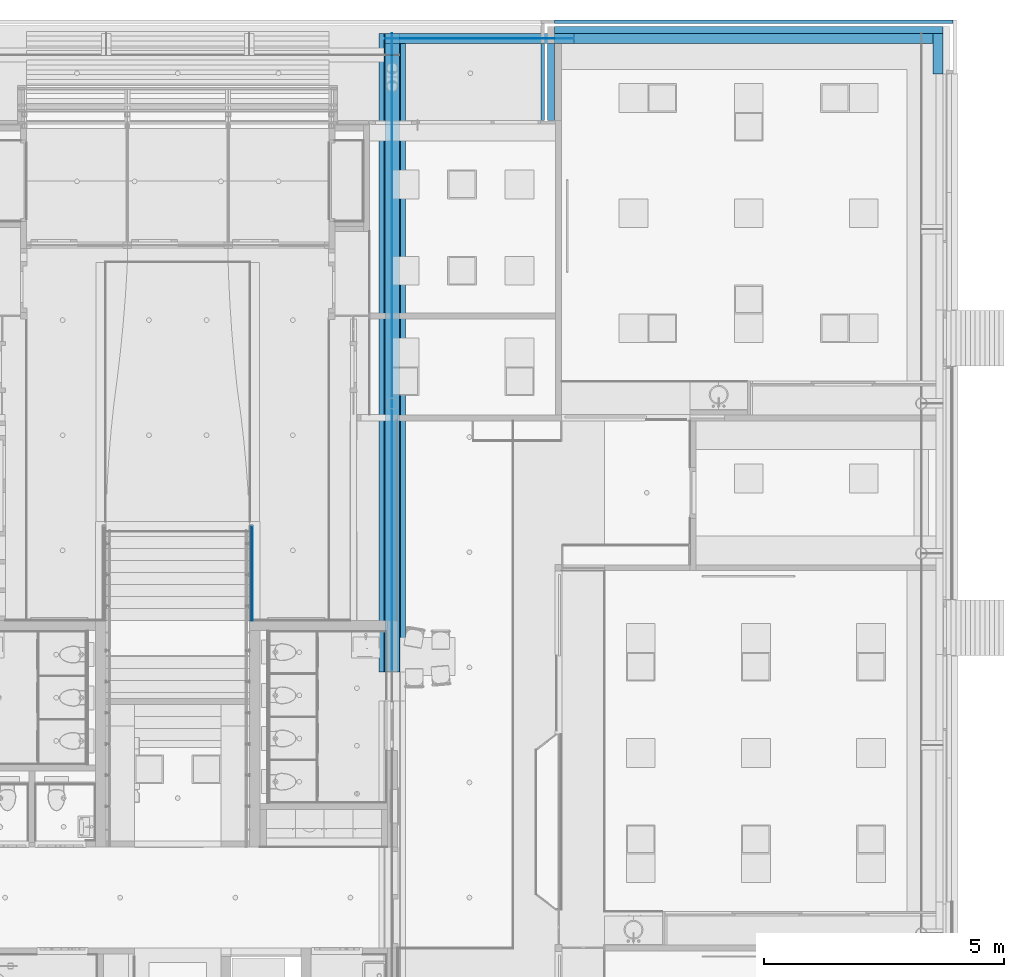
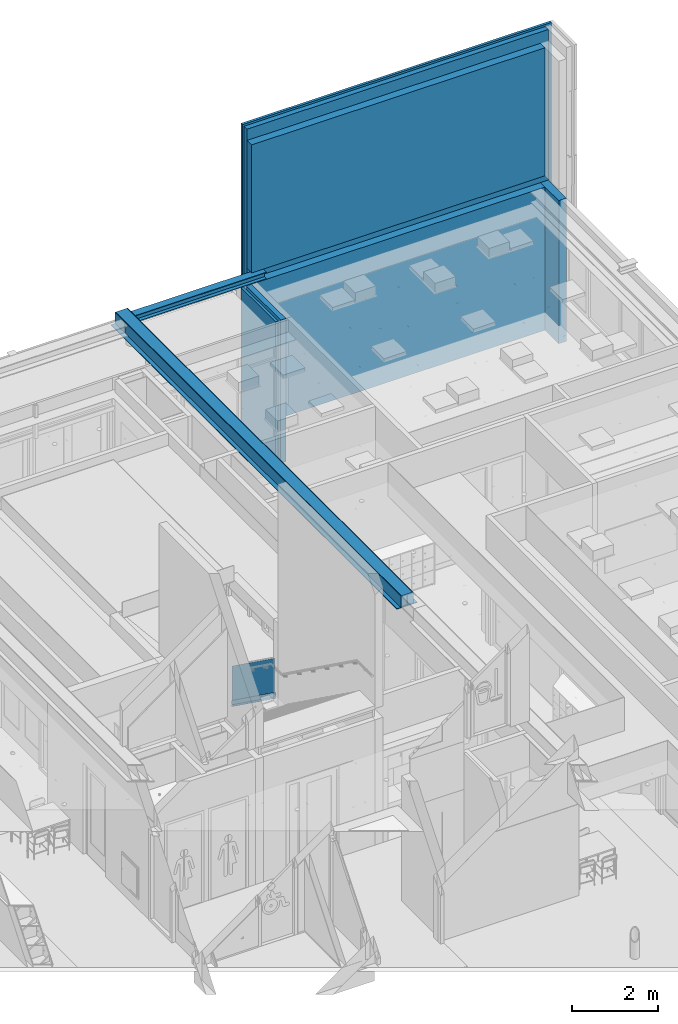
# One storey, part 125 of 347: 19 building element parts, 2 openings, 6 elements without a shape of their own.
"""IFC2X3 building model written with IfcOpenShell, lengths in millimetres."""

import ifcopenshell
import ifcopenshell.guid

model = None  # the IFC model being written
_history = None  # IfcOwnerHistory: only IFC2X3 demands one
_inside = {}  # id of a spatial element -> (the spatial element, [elements in it])
_under = {}  # id of a project, library or spatial element -> (it, [spatial elements below it])
_declared = {}  # id of a project -> (the project, [libraries it declares])
_typed = {}  # id of a type object -> (the type object, [elements of that type])
_made_of = {}  # id of a material, layer set ... -> (it, [elements and type objects made of it])


def new_model(schema):
    """Start an empty IFC model of exactly this schema.

    Asked for "IFC4X3", IfcOpenShell would pick the latest addendum, in which some entities
    have other attributes; the version numbers below select the first issue.
    IFC2X3 requires an IfcOwnerHistory on every rooted entity: one is made here for all.
    """
    global model, _history
    if schema == "IFC4X3":
        model = ifcopenshell.file(schema_version=(4, 3, 0, 0))
    else:
        model = ifcopenshell.file(schema=schema)
    _inside.clear()
    _under.clear()
    _declared.clear()
    _typed.clear()
    _made_of.clear()
    _history = None
    if model.schema == "IFC2X3":
        org = make("IfcOrganization", Name="unknown")
        user = make(
            "IfcPersonAndOrganization",
            ThePerson=make("IfcPerson", FamilyName="unknown"),
            TheOrganization=org,
        )
        app = make(
            "IfcApplication",
            ApplicationDeveloper=org,
            Version="unknown",
            ApplicationFullName="unknown",
            ApplicationIdentifier="unknown",
        )
        _history = make(
            "IfcOwnerHistory",
            OwningUser=user,
            OwningApplication=app,
            ChangeAction="ADDED",
            CreationDate=0,
        )
    return model


def make(cls, **values):
    """One entity of the class cls with the attributes given. An attribute that is None is left unset."""
    return model.create_entity(
        cls, **{name: value for name, value in values.items() if value is not None}
    )


def entity(cls, *values):
    """Any entity or typed value of the class cls, its attributes in the order of the schema. None: left unset."""
    e = model.create_entity(cls)
    for i, value in enumerate(values):
        if value is not None:
            e[i] = value
    return e


def rooted(cls, **values):
    """An entity with a GlobalId (a new one), such as an element, a storey or a relation."""
    return make(cls, GlobalId=ifcopenshell.guid.new(), OwnerHistory=_history, **values)


def si_unit(unit_type, name, prefix=None):
    """IfcSIUnit, for example si_unit("LENGTHUNIT", "METRE", prefix="MILLI")."""
    return make("IfcSIUnit", UnitType=unit_type, Prefix=prefix, Name=name)


def converted_unit(unit_type, name, factor, base, dimensions=None, offset=None):
    """IfcConversionBasedUnit, such as the inch: factor (a typed value) times the base unit."""
    return make(
        "IfcConversionBasedUnit"
        if offset is None
        else "IfcConversionBasedUnitWithOffset",
        ConversionOffset=offset,
        Dimensions=None
        if dimensions is None
        else entity("IfcDimensionalExponents", *dimensions),
        UnitType=unit_type,
        Name=name,
        ConversionFactor=make(
            "IfcMeasureWithUnit", ValueComponent=factor, UnitComponent=base
        ),
    )


def derived_unit(unit_type, elements):
    """IfcDerivedUnit: a product of units, each with its exponent."""
    return make(
        "IfcDerivedUnit",
        Elements=[
            make("IfcDerivedUnitElement", Unit=unit, Exponent=power)
            for unit, power in elements
        ],
        UnitType=unit_type,
    )


def money_unit(currency):
    """IfcMonetaryUnit."""
    return make("IfcMonetaryUnit", Currency=currency)


def assignment(units):
    """IfcUnitAssignment: the units of a project."""
    return None if units is None else make("IfcUnitAssignment", Units=units)


def point(xyz):
    """IfcCartesianPoint."""
    return None if xyz is None else make("IfcCartesianPoint", Coordinates=xyz)


def direction(xyz):
    """IfcDirection."""
    return None if xyz is None else make("IfcDirection", DirectionRatios=xyz)


def frame(location, z_axis=None, x_axis=None):
    """IfcAxis2Placement3D, a coordinate frame: its origin and axes. An axis left out is left unset."""
    return make(
        "IfcAxis2Placement3D",
        Location=point(location),
        Axis=direction(z_axis),
        RefDirection=direction(x_axis),
    )


def origin_with_axes():
    """The frame at (0, 0, 0) with the z axis (0, 0, 1) and the x axis (1, 0, 0) written out."""
    return frame((0.0, 0.0, 0.0), z_axis=(0.0, 0.0, 1.0), x_axis=(1.0, 0.0, 0.0))


def place(relative_to, where):
    """IfcLocalPlacement: puts the frame where relative to a parent placement (None: the world)."""
    return make(
        "IfcLocalPlacement", PlacementRelTo=relative_to, RelativePlacement=where
    )


def context(
    kind, dimensions, precision=None, world=None, true_north=None, identifier=None
):
    """IfcGeometricRepresentationContext, for example the 3D "Model" context."""
    return make(
        "IfcGeometricRepresentationContext",
        ContextIdentifier=identifier,
        ContextType=kind,
        CoordinateSpaceDimension=dimensions,
        Precision=precision,
        WorldCoordinateSystem=world,
        TrueNorth=true_north,
    )


def subcontext(parent, identifier, kind, view, scale=None):
    """IfcGeometricRepresentationSubContext, for example "Body" below "Model"."""
    return make(
        "IfcGeometricRepresentationSubContext",
        ContextIdentifier=identifier,
        ContextType=kind,
        ParentContext=parent,
        TargetScale=scale,
        TargetView=view,
    )


def project(units=None, contexts=None):
    """IfcProject with its units and contexts."""
    return rooted(
        "IfcProject",
        Name="project",
        RepresentationContexts=contexts,
        UnitsInContext=assignment(units),
    )


def spatial(cls, under=None, at=None, **own):
    """A site, building, storey or space (cls), placed at a placement, below another one or the project."""
    s = rooted(cls, ObjectPlacement=at, **own)
    if under is not None:
        _under.setdefault(under.id(), (under, []))[1].append(s)
    return s


def faces_of(points, faces, orient=None, outer=None):
    """IfcFace entities. A face is a list of loops; a loop is a list of indices into points, from 0.

    orient and outer hold one flag for each loop. By default every Orientation is true, the
    first loop of a face is its IfcFaceOuterBound and the others are IfcFaceBound.
    """
    made = []
    for i, loops in enumerate(faces):
        bounds = []
        for j, loop in enumerate(loops):
            is_outer = j == 0 if outer is None else outer[i][j]
            bounds.append(
                make(
                    "IfcFaceOuterBound" if is_outer else "IfcFaceBound",
                    Bound=make("IfcPolyLoop", Polygon=[points[k] for k in loop]),
                    Orientation=True if orient is None else orient[i][j],
                )
            )
        made.append(make("IfcFace", Bounds=bounds))
    return made


def faceted_brep(points, faces, orient=None, outer=None, voids=None):
    """IfcFacetedBrep: a solid bounded by flat faces; with voids (closed shells), ...WithVoids."""
    shared = [point(p) for p in points]
    hull = make("IfcClosedShell", CfsFaces=faces_of(shared, faces, orient, outer))
    if voids is None:
        return make("IfcFacetedBrep", Outer=hull)
    return make(
        "IfcFacetedBrepWithVoids",
        Outer=hull,
        Voids=[
            make(cls, CfsFaces=faces_of(shared, fs, o, b)) for cls, fs, o, b in voids
        ],
    )


def shape(context_of_items, identifier, shape_type, items):
    """IfcShapeRepresentation: the items that make up one representation, for example the "Body"."""
    return make(
        "IfcShapeRepresentation",
        ContextOfItems=context_of_items,
        RepresentationIdentifier=identifier,
        RepresentationType=shape_type,
        Items=items,
    )


def material(Name=None, Category=None):
    """IfcMaterial."""
    return make("IfcMaterial", Name=Name, Category=Category)


def made_of(thing, what):
    """Note that an element or type object is made of a material, layer set ...; save() writes the relation."""
    if what is not None:
        _made_of.setdefault(what.id(), (what, []))[1].append(thing)
    return thing


def type_object(cls, material=None, **own):
    """A type object (cls), such as IfcWallType, which elements share."""
    return made_of(rooted(cls, **own), material)


def element(
    cls,
    number,
    at=None,
    inside=None,
    cuts=None,
    type_object=None,
    material=None,
    context=None,
    identifier="Body",
    shape_type=None,
    held_by="IfcProductDefinitionShape",
    body=None,
    shapes=None,
    **own,
):
    """One element of the class cls, such as IfcWall. Its Tag is "e" and its number.

    at: its placement. inside: the storey or other place that contains it. cuts: it is an
    opening in that element (IfcRelVoidsElement). A single representation is given by context,
    identifier, shape_type and body (its items); several are given by shapes. held_by: the class
    of the entity that holds the representations. save() writes the other relations.
    """
    e = rooted(cls, Tag="e%d" % number, ObjectPlacement=at, **own)
    if body is not None:
        shapes = [shape(context, identifier, shape_type, body)]
    if shapes is not None:
        e.Representation = make(held_by, Representations=shapes)
    if inside is not None:
        _inside.setdefault(inside.id(), (inside, []))[1].append(e)
    if cuts is not None:
        rooted(
            "IfcRelVoidsElement", RelatingBuildingElement=cuts, RelatedOpeningElement=e
        )
    if type_object is not None:
        _typed.setdefault(type_object.id(), (type_object, []))[1].append(e)
    return made_of(e, material)


def aggregate(whole, parts):
    """IfcRelAggregates: a whole, such as a stair, and the parts it consists of."""
    return rooted("IfcRelAggregates", RelatingObject=whole, RelatedObjects=parts)


def save(model, path):
    """Write the relations noted so far, then the file.

    IfcRelAggregates (storeys below a building ...), IfcRelContainedInSpatialStructure (elements
    in a storey), IfcRelDefinesByType, IfcRelAssociatesMaterial and IfcRelDeclares: one each for
    every whole, place, type object, material and project.
    """
    for whole, parts in _under.values():
        aggregate(whole, parts)
    for where, things in _inside.values():
        rooted(
            "IfcRelContainedInSpatialStructure",
            RelatedElements=things,
            RelatingStructure=where,
        )
    for kind, things in _typed.values():
        rooted("IfcRelDefinesByType", RelatedObjects=things, RelatingType=kind)
    for what, things in _made_of.values():
        rooted("IfcRelAssociatesMaterial", RelatedObjects=things, RelatingMaterial=what)
    for by, libraries in _declared.values():
        rooted("IfcRelDeclares", RelatingContext=by, RelatedDefinitions=libraries)
    model.write(path)


model = new_model("IFC2X3")

# Units and contexts
model_context = context("Model", 3, precision=0.01, world=origin_with_axes(), true_north=direction((0.0, 1.0)))
plan_context = context("Plan", 3, precision=0.01, world=origin_with_axes(), true_north=direction((0.0, 1.0)))
body_context = subcontext(model_context, "Body", "Model", "MODEL_VIEW")
ifc_project = project(units=[si_unit("LENGTHUNIT", "METRE", prefix="MILLI"), si_unit("AREAUNIT", "SQUARE_METRE"), si_unit("VOLUMEUNIT", "CUBIC_METRE"), converted_unit("PLANEANGLEUNIT", "DEGREE", entity("IfcPlaneAngleMeasure", 0.0174532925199), si_unit("PLANEANGLEUNIT", "RADIAN"), dimensions=[0, 0, 0, 0, 0, 0, 0]), money_unit("EUR"), converted_unit("TIMEUNIT", "Year", entity("IfcTimeMeasure", 31556926.0), si_unit("TIMEUNIT", "SECOND"), dimensions=[0, 0, 1, 0, 0, 0, 0]), si_unit("MASSUNIT", "GRAM", prefix="KILO"), si_unit("THERMODYNAMICTEMPERATUREUNIT", "DEGREE_CELSIUS"), si_unit("LUMINOUSINTENSITYUNIT", "LUMEN"), si_unit("ENERGYUNIT", "JOULE", prefix="MEGA"), derived_unit("THERMALCONDUCTANCEUNIT", [(si_unit("POWERUNIT", "WATT"), 1), (si_unit("LENGTHUNIT", "METRE"), -1), (si_unit("THERMODYNAMICTEMPERATUREUNIT", "KELVIN"), -1)]), derived_unit("SPECIFICHEATCAPACITYUNIT", [(si_unit("ENERGYUNIT", "JOULE"), 1), (si_unit("MASSUNIT", "GRAM", prefix="KILO"), -1), (si_unit("THERMODYNAMICTEMPERATUREUNIT", "KELVIN"), -1)]), derived_unit("MASSDENSITYUNIT", [(si_unit("MASSUNIT", "GRAM", prefix="KILO"), 1), (si_unit("VOLUMEUNIT", "CUBIC_METRE"), -1)])], contexts=[model_context, plan_context])

# Site, building, storey
site_placement = place(None, origin_with_axes())
site = spatial("IfcSite", under=ifc_project, at=site_placement, Name="Site", CompositionType="ELEMENT")
building_placement = place(site_placement, origin_with_axes())
building = spatial("IfcBuilding", under=site, at=building_placement, Name="Naam gebouw", CompositionType="ELEMENT")
storey_placement = place(building_placement, origin_with_axes())
storey = spatial("IfcBuildingStorey", under=building, at=storey_placement, Name="begane grond", CompositionType="ELEMENT", Elevation=0.0)

# Beam, building element parts
beam_type_1 = type_object("IfcBeamType", Name="28 SFBHE320B/S355 550 x 340", PredefinedType="BEAM")
beam_1_placement = place(storey_placement, frame((44545.0, 47036.9999775, 3560.0), z_axis=(0.0, 0.0, 1.0), x_axis=(-1.0, 0.0, 0.0)))
beam_1 = element("IfcBeam", 1, at=beam_1_placement, inside=storey, type_object=beam_type_1, Name="28_Balk-x", ObjectType="BEAM")
ifc_material_1 = material(Name="Beton gewapend C vloer")
building_element_part_1_placement = place(beam_1_placement, origin_with_axes())
building_element_part_1 = element("IfcBuildingElementPart", 2, at=building_element_part_1_placement, material=ifc_material_1, Name="Beton gewapend C vloer", context=body_context, shape_type="Brep", body=[
    faceted_brep([(-170.0, 109.499979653, 185.0), (-170.0, 204.999980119, 185.0), (-170.0, 204.999980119, 200.0), (-170.0, 4.99997916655, 200.0), (-170.0, 4.99997916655, 185.0), (-170.0, 100.499979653, 185.0), (-170.0, 100.499979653, 15.0), (-170.0, 4.99997894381, 15.0), (-170.0, 4.99997894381, 0.0), (-170.0, 0.0, 0.0), (-170.0, 0.0, 320.000002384), (-170.0, 13309.5000989, 320.000002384), (-170.0, 13309.5000989, 0.0), (-170.0, 204.999979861, 0.0), (-170.0, 204.999979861, 15.0), (-170.0, 109.499979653, 15.0), (-5.74999880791, 204.999980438, 185.0), (-5.74999880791, 109.499979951, 185.0), (-5.74999880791, 204.999980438, 200.0), (-5.74999880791, 4.99997944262, 200.0), (-5.74999880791, 4.99997944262, 185.0), (-5.74999880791, 100.499979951, 185.0), (-150.000002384, 100.499979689, 15.0), (-5.74999880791, 100.499979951, 20.500000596), (-150.000002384, 100.499979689, 20.500000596), (-150.000002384, 4.9999789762, 15.0), (-150.000002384, 4.9999789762, 0.0), (-150.000002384, 0.0, 0.0), (-150.000002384, 0.0, 320.000002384), (-150.000002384, 0.0, 20.500000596), (-5.74999880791, 0.0, 20.500000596), (-5.74999880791, 0.0, 299.500001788), (-150.000002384, 0.0, 299.500001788), (-150.000002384, 13309.5000989, 320.000002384), (-150.000002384, 13309.5000989, 20.500000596), (-150.000002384, 13309.5000989, 0.0), (-150.000002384, 13309.5000989, 299.500001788), (-5.74999880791, 13309.5000989, 299.500001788), (-5.74999880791, 13309.5000989, 20.500000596), (-150.000002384, 204.999979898, 0.0), (-150.000002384, 204.999979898, 15.0), (-150.000002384, 109.499979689, 15.0), (-150.000002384, 109.499979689, 20.500000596), (-5.74999880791, 109.499979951, 20.500000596)], [[[0, 1, 2, 3, 4, 5, 6, 7, 8, 9, 10, 11, 12, 13, 14, 15]], [[16, 1, 0, 17]], [[18, 2, 1, 16]], [[19, 3, 2, 18]], [[20, 4, 3, 19]], [[21, 5, 4, 20]], [[22, 6, 5, 21, 23, 24]], [[25, 7, 6, 22]], [[26, 8, 7, 25]], [[9, 8, 26, 27]], [[28, 10, 9, 27, 29, 30, 31, 32]], [[10, 28, 33, 11]], [[34, 35, 12, 11, 33, 36, 37, 38]], [[35, 39, 13, 12]], [[40, 14, 13, 39]], [[41, 15, 14, 40]], [[17, 0, 15, 41, 42, 43]], [[16, 17, 43, 38, 37, 31, 30, 23, 21, 20, 19, 18]], [[29, 24, 23, 30]], [[25, 22, 24, 29, 27, 26]], [[32, 31, 37, 36]], [[28, 32, 36, 33]], [[41, 40, 39, 35, 34, 42]], [[38, 43, 42, 34]]]),
    faceted_brep([(150.000002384, 299.999977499, 299.500001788), (5.74999880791, 299.999977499, 299.500001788), (5.74999880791, 0.0, 299.500001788), (150.000002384, 0.0, 299.500001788), (5.74999880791, 299.999977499, 281.0), (150.000002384, 299.999977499, 300.0), (170.0, 299.999977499, 300.0), (170.0, 299.999977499, 281.0), (5.74999880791, 444.499977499, 281.0), (5.74999880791, 444.499977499, 20.500000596), (5.74999880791, 0.0, 20.500000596), (150.000002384, 0.0, 320.000002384), (150.000002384, 0.0, 20.500000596), (150.000002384, 0.0, 0.0), (170.0, 0.0, 0.0), (170.0, 0.0, 320.000002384), (150.000002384, 13309.5000989, 320.000002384), (150.000002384, 13309.5000989, 299.500001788), (150.000002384, 599.999977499, 299.500001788), (150.000002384, 599.999977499, 300.0), (170.0, 599.999977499, 300.0), (170.0, 599.999977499, 19.0), (170.0, 599.999977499, 0.0), (170.0, 13309.5000989, 0.0), (170.0, 13309.5000989, 320.000002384), (170.0, 299.999977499, 0.0), (170.0, 299.999977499, 19.0), (170.0, 444.499977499, 19.0), (170.0, 444.499977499, 281.0), (170.0, 599.999977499, 281.0), (170.0, 455.499977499, 281.0), (170.0, 455.499977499, 19.0), (150.000002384, 444.499977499, 19.0), (150.000002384, 444.499977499, 20.500000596), (150.000002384, 299.999977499, 19.0), (150.000002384, 299.999977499, 0.0), (150.000002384, 13309.5000989, 20.500000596), (5.74999880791, 13309.5000989, 20.500000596), (5.74999880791, 13309.5000989, 299.500001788), (150.000002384, 13309.5000989, 0.0), (5.74999880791, 599.999977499, 299.500001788), (5.74999880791, 599.999977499, 281.0), (150.000002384, 599.999977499, 19.0), (150.000002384, 599.999977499, 0.0), (5.74999880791, 455.499977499, 281.0), (5.74999880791, 455.499977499, 20.500000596), (150.000002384, 455.499977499, 20.500000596), (150.000002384, 455.499977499, 19.0)], [[[0, 1, 2, 3]], [[4, 1, 0, 5, 6, 7]], [[8, 9, 10, 2, 1, 4]], [[11, 3, 2, 10, 12, 13, 14, 15]], [[5, 0, 3, 11, 16, 17, 18, 19]], [[5, 19, 20, 6]], [[21, 22, 23, 24, 15, 14, 25, 26, 27, 28, 7, 6, 20, 29, 30, 31]], [[8, 4, 7, 28]], [[9, 8, 28, 27, 32, 33]], [[9, 33, 12, 10]], [[34, 35, 13, 12, 33, 32]], [[35, 25, 14, 13]], [[11, 15, 24, 16]], [[36, 37, 38, 17, 16, 24, 23, 39]], [[40, 18, 17, 38]], [[18, 40, 41, 29, 20, 19]], [[42, 43, 22, 21]], [[22, 43, 39, 23]], [[35, 34, 26, 25]], [[34, 32, 27, 26]], [[41, 44, 30, 29]], [[44, 45, 46, 47, 31, 30]], [[47, 42, 21, 31]], [[46, 45, 37, 36]], [[41, 40, 38, 37, 45, 44]], [[47, 46, 36, 39, 43, 42]]]),
])
ifc_material_2 = material(Name="Metaal - Staal C")
building_element_part_2_placement = place(beam_1_placement, origin_with_axes())
building_element_part_2 = element("IfcBuildingElementPart", 3, at=building_element_part_2_placement, material=ifc_material_2, Name="Metaal - Staal C", context=body_context, shape_type="Brep", body=[
    faceted_brep([(-150.000004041, 599.999977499, 19.0), (-150.000004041, 455.499977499, 19.0), (-150.000004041, 455.499977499, 20.5000025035), (-150.0, 13309.5000989, 20.5), (-150.0, 13309.5000989, 0.0), (-150.000004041, 599.999977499, 0.0), (150.000001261, 599.999977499, 19.0), (150.000001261, 455.499977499, 19.0), (-5.74999724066, 455.499977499, 20.4999977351), (150.000001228, 455.499977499, 20.5000024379), (150.0, 13309.5000989, 20.5), (150.0, 13309.5000989, 0.0), (150.000001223, 599.999977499, 0.0)], [[[0, 1, 2, 3, 4, 5]], [[1, 0, 6, 7]], [[8, 2, 1, 7, 9]], [[8, 9, 10, 3, 2]], [[10, 11, 4, 3]], [[12, 5, 4, 11]], [[0, 5, 12, 6]], [[6, 12, 11, 10, 9, 7]]]),
    faceted_brep([(-150.000004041, 444.499977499, 20.5000025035), (-150.000004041, 444.499977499, 19.0), (-150.000004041, 299.999977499, 19.0), (-150.000004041, 299.999977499, 0.0), (-150.0, 204.999979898, 0.0), (-150.0, 204.999979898, 15.0), (-150.0, 109.499979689, 15.0), (-150.0, 109.499979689, 20.5), (-5.74999724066, 444.499977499, 20.4999977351), (150.000001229, 444.499977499, 20.50000244), (150.000001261, 444.499977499, 19.0), (150.000001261, 299.999977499, 19.0), (150.000001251, 299.999977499, 0.0), (150.000001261, 204.99998046, 0.0), (150.000001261, 204.99998046, 15.0), (150.000001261, 109.499980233, 15.0), (150.000001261, 109.499980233, 20.5000025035)], [[[0, 1, 2, 3, 4, 5, 6, 7]], [[1, 0, 8, 9, 10]], [[2, 1, 10, 11]], [[3, 2, 11, 12]], [[3, 12, 13, 4]], [[14, 5, 4, 13]], [[15, 6, 5, 14]], [[16, 7, 6, 15]], [[8, 0, 7, 16, 9]], [[10, 9, 16, 15, 14, 13, 12, 11]]]),
    faceted_brep([(-150.0, 100.499979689, 20.5), (-150.0, 100.499979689, 15.0), (-150.0, 4.9999789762, 15.0), (-150.0, 4.9999789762, 0.0), (-150.0, 0.0, 0.0), (-150.0, 0.0, 20.5), (5.74999922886, 100.499979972, 20.4999977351), (150.000001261, 100.499980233, 20.5000025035), (150.000001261, 100.499980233, 15.0), (150.000001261, 4.99997946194, 15.0), (150.000001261, 4.99997946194, 0.0), (150.0, 0.0, 0.0), (150.0, 0.0, 20.5)], [[[0, 1, 2, 3, 4, 5]], [[1, 0, 6, 7, 8]], [[2, 1, 8, 9]], [[3, 2, 9, 10]], [[3, 10, 11, 4]], [[5, 4, 11, 12]], [[6, 0, 5, 12, 7]], [[8, 7, 12, 11, 10, 9]]]),
])
building_element_part_3_placement = place(beam_1_placement, origin_with_axes())
building_element_part_3 = element("IfcBuildingElementPart", 4, at=building_element_part_3_placement, material=ifc_material_2, Name="Metaal - Staal C", context=body_context, shape_type="Brep", body=[
    faceted_brep([(-5.74999724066, 599.999977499, 281.0), (-5.74999724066, 599.999977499, 299.499999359), (-5.75, 13309.5000989, 299.5), (-5.75, 13309.5000989, 20.5), (-5.74999724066, 455.499977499, 20.4999977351), (-5.74999724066, 455.499977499, 281.0), (5.75, 599.999977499, 299.5), (5.74999922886, 599.999977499, 281.0), (5.75, 13309.5000989, 299.5), (5.75, 13309.5000989, 20.5), (5.74999924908, 455.499977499, 20.4999977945), (5.74999922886, 455.499977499, 281.0)], [[[0, 1, 2, 3, 4, 5]], [[6, 1, 0, 7]], [[1, 6, 8, 2]], [[9, 3, 2, 8]], [[10, 4, 3, 9]], [[5, 4, 10, 11]], [[0, 5, 11, 7]], [[11, 10, 9, 8, 6, 7]]]),
    faceted_brep([(5.75, 299.999977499, 299.5), (-5.74999724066, 299.999977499, 299.499999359), (-5.75, 0.0, 299.5), (5.75, 0.0, 299.5), (-5.74999724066, 299.999977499, 281.0), (5.74999922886, 299.999977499, 281.0), (-5.74999724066, 444.499977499, 281.0), (-5.74999724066, 444.499977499, 20.4999977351), (-5.75, 109.499979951, 20.5), (-5.75, 109.499979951, 185.0), (-5.75, 204.999980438, 185.0), (-5.75, 204.999980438, 200.0), (-5.75, 4.99997944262, 200.0), (-5.75, 4.99997944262, 185.0), (-5.75, 100.499979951, 185.0), (-5.75, 100.499979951, 20.5), (-5.75, 0.0, 20.5), (5.75, 0.0, 20.5), (5.74999922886, 100.499979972, 20.4999977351), (5.74999922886, 100.499979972, 185.0), (5.74999922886, 4.99997946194, 185.0), (5.74999922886, 4.99997946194, 200.0), (5.74999922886, 204.99998046, 200.0), (5.74999922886, 204.99998046, 185.0), (5.74999922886, 109.499979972, 185.0), (5.74999922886, 109.499979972, 20.4999977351), (5.74999924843, 444.499977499, 20.4999977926), (5.74999922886, 444.499977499, 281.0)], [[[0, 1, 2, 3]], [[4, 1, 0, 5]], [[6, 7, 8, 9, 10, 11, 12, 13, 14, 15, 16, 2, 1, 4]], [[17, 3, 2, 16]], [[5, 0, 3, 17, 18, 19, 20, 21, 22, 23, 24, 25, 26, 27]], [[6, 4, 5, 27]], [[7, 6, 27, 26]], [[7, 26, 25, 8]], [[24, 9, 8, 25]], [[23, 10, 9, 24]], [[22, 11, 10, 23]], [[21, 12, 11, 22]], [[20, 13, 12, 21]], [[19, 14, 13, 20]], [[18, 15, 14, 19]], [[16, 15, 18, 17]]]),
])
building_element_part_4_placement = place(beam_1_placement, origin_with_axes())
building_element_part_4 = element("IfcBuildingElementPart", 5, at=building_element_part_4_placement, material=ifc_material_2, Name="Metaal - Staal C", context=body_context, shape_type="Brep", body=[
    faceted_brep([(-150.000004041, 599.999977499, 299.499999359), (-150.000004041, 599.999977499, 300.0), (-150.000004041, 299.999977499, 300.0), (-150.000004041, 299.999977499, 299.499999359), (-150.0, 0.0, 299.5), (-150.0, 0.0, 320.0), (-150.0, 13309.5000989, 320.0), (-150.0, 13309.5000989, 299.5), (-5.74999724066, 599.999977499, 299.499999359), (150.0, 599.999977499, 299.5), (150.0, 599.999977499, 300.0), (150.0, 299.999977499, 300.0), (150.0, 299.999977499, 299.5), (-5.74999724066, 299.999977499, 299.499999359), (150.0, 0.0, 299.5), (150.0, 0.0, 320.0), (150.0, 13309.5000989, 320.0), (150.0, 13309.5000989, 299.5)], [[[0, 1, 2, 3, 4, 5, 6, 7]], [[1, 0, 8, 9, 10]], [[2, 1, 10, 11]], [[3, 2, 11, 12, 13]], [[13, 12, 14, 4, 3]], [[15, 5, 4, 14]], [[15, 16, 6, 5]], [[7, 6, 16, 17]], [[8, 0, 7, 17, 9]], [[10, 9, 17, 16, 15, 14, 12, 11]]]),
])
building_element_part_5_placement = place(beam_1_placement, origin_with_axes())
building_element_part_5 = element("IfcBuildingElementPart", 6, at=building_element_part_5_placement, material=ifc_material_2, Name="Metaal - Staal C", context=body_context, shape_type="Brep", body=[
    faceted_brep([(-275.0, 0.0, -20.0), (-275.0, 0.0, 0.0), (-275.0, 13309.5000989, 0.0), (-275.0, 13309.5000989, -20.0), (170.0, 0.0, 0.0), (-170.0, 0.0, 0.0), (275.0, 0.0, -20.0), (275.0, 0.0, 0.0), (-170.0, 13309.5000989, 0.0), (275.0, 13309.5000989, -20.0), (170.0, 13309.5000989, 0.0), (275.0, 13309.5000989, 0.0)], [[[0, 1, 2, 3]], [[4, 5, 1, 0, 6, 7]], [[1, 5, 8, 2]], [[9, 3, 2, 8, 10, 11]], [[6, 0, 3, 9]], [[5, 4, 10, 8]], [[7, 6, 9, 11]], [[4, 7, 11, 10]]]),
])
aggregate(beam_1, [building_element_part_1, building_element_part_2, building_element_part_3, building_element_part_4, building_element_part_5])

beam_type_2 = type_object("IfcBeamType", Name="34 glazen balustrade 60 x 992", PredefinedType="BEAM")
beam_2_placement = place(storey_placement, frame((41575.0, 36769.9999997, 21.5999956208), z_axis=(0.0, 0.0, 1.0), x_axis=(-1.0, 0.0, 0.0)))
beam_2 = element("IfcBeam", 7, at=beam_2_placement, inside=storey, type_object=beam_type_2, Name="28_Balk-x", ObjectType="BEAM")
ifc_material_3 = material(Name="Glas")
building_element_part_6_placement = place(beam_2_placement, origin_with_axes())
building_element_part_6 = element("IfcBuildingElementPart", 8, at=building_element_part_6_placement, material=ifc_material_3, Name="Glas", context=body_context, shape_type="Brep", body=[
    faceted_brep([(-37.5000018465, 0.0, 1000.00000105), (-37.5000018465, 1969.99996392, 2418.40000543), (-37.4999885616, 1969.99996392, 1443.04466837), (-37.4999885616, 0.0, 24.6446639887), (-22.4999972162, 0.0, 1000.00000105), (-22.4999972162, 1969.99996392, 2418.40000543), (-22.4999972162, 1969.99996392, 1443.04466837), (-22.4999972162, 1969.99996392, 1332.14364547), (-37.4999885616, 1969.99996392, 1332.14364547), (-37.4999885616, 0.0, -86.2563589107), (-22.4999972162, 0.0, -86.2563589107), (-22.4999972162, 0.0, 24.6446639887)], [[[0, 1, 2, 3]], [[4, 5, 1, 0]], [[2, 1, 5, 6, 7, 8]], [[3, 2, 8, 9]], [[4, 0, 3, 9, 10, 11]], [[11, 6, 5, 4]], [[10, 7, 6, 11]], [[9, 8, 7, 10]]]),
])
ifc_material_4 = material(Name="Membraan - rubber")
building_element_part_7_placement = place(beam_2_placement, origin_with_axes())
building_element_part_7 = element("IfcBuildingElementPart", 9, at=building_element_part_7_placement, material=ifc_material_4, Name="Membraan - rubber", context=body_context, shape_type="Brep", body=[
    faceted_brep([(-50.0, 9.69264510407, -91.5999956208), (-50.0, 0.0, -91.5999956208), (-50.0, 0.0, 24.6446750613), (-50.0, 1969.99996392, 1443.04467944), (-50.0, 1969.99996392, 1319.82130413), (-10.0, 0.0, -91.5999956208), (-10.0, 9.69264510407, -91.5999956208), (-10.0, 0.0, 24.6446750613), (-22.4999940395, 0.0, 24.6446677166), (-22.4999940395, 0.0, -86.2563553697), (-37.4999940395, 0.0, -86.2563553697), (-37.4999940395, 0.0, 24.6446677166), (-37.4999940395, 1969.99996392, 1443.0446721), (-22.4999940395, 1969.99996392, 1332.14364901), (-22.4999940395, 1969.99996392, 1443.0446721), (-10.0, 1969.99996392, 1443.04467944), (-10.0, 1969.99996392, 1319.82130413), (-37.4999940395, 1969.99996392, 1332.14364901)], [[[0, 1, 2, 3, 4]], [[5, 1, 0, 6]], [[1, 5, 7, 8, 9, 10, 11, 2]], [[2, 11, 12, 3]], [[13, 14, 15, 16, 4, 3, 12, 17]], [[6, 0, 4, 16]], [[5, 6, 16, 15, 7]], [[8, 7, 15, 14]], [[9, 8, 14, 13]], [[10, 9, 13, 17]], [[11, 10, 17, 12]]]),
])
ifc_material_5 = material(Name="Metaal - Staal C wit")
building_element_part_8_placement = place(beam_2_placement, origin_with_axes())
building_element_part_8 = element("IfcBuildingElementPart", 10, at=building_element_part_8_placement, material=ifc_material_5, Name="Metaal - Staal C wit", context=body_context, shape_type="Brep", body=[
    faceted_brep([(-60.0, 1969.99996392, 1443.04467944), (-60.0, 1969.99996392, 1258.20961648), (-60.0, 0.0, -160.190387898), (-60.0, 0.0, 24.6446750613), (-50.0, 1969.99996392, 1443.04467944), (-50.0, 1969.99996392, 1270.53195401), (-50.0, 1969.99996392, 1258.20961648), (-50.0, 0.0, -160.190387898), (-50.0, 0.0, -147.868050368), (-50.0, 0.0, 24.6446750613)], [[[0, 1, 2, 3]], [[0, 4, 5, 6, 1]], [[1, 6, 7, 2]], [[3, 2, 7, 8, 9]], [[4, 0, 3, 9]], [[5, 4, 9, 8]], [[6, 5, 8, 7]]]),
])
building_element_part_9_placement = place(beam_2_placement, origin_with_axes())
building_element_part_9 = element("IfcBuildingElementPart", 11, at=building_element_part_9_placement, material=ifc_material_5, Name="Metaal - Staal C wit", context=body_context, shape_type="Brep", body=[
    faceted_brep([(-10.0, 1969.99996392, 1319.82130413), (-50.0, 1969.99996392, 1319.82130413), (-50.0, 0.0, -98.5787002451), (-10.0, 0.0, -98.5787002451), (-10.0, 1969.99996392, 1270.53195401), (-50.0, 1969.99996392, 1270.53195401), (-47.0, 1969.99996392, 1274.22865527), (-13.0, 1969.99996392, 1274.22865527), (-13.0, 1969.99996392, 1316.12460287), (-47.0, 1969.99996392, 1316.12460287), (-50.0, 0.0, -147.868050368), (-10.0, 0.0, -147.868050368), (-47.0, 0.0, -144.171349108), (-47.0, 0.0, -102.275401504), (-13.0, 0.0, -102.275401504), (-13.0, 0.0, -144.171349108)], [[[0, 1, 2, 3]], [[0, 4, 5, 1], [6, 7, 8, 9]], [[1, 5, 10, 2]], [[3, 2, 10, 11], [12, 13, 14, 15]], [[4, 0, 3, 11]], [[5, 4, 11, 10]], [[7, 6, 12, 15]], [[8, 7, 15, 14]], [[9, 8, 14, 13]], [[6, 9, 13, 12]]]),
])
aggregate(beam_2, [building_element_part_6, building_element_part_7, building_element_part_8, building_element_part_9])

beam_type_3 = type_object("IfcBeamType", Name="28 HEB200 200 x 200", PredefinedType="BEAM")
beam_3_placement = place(storey_placement, frame((44545.0, 46931.9999975, 3560.0), z_axis=(0.0, 0.0, 1.0), x_axis=(1.81515303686e-09, -1.0, 0.0)))
beam_3 = element("IfcBeam", 12, at=beam_3_placement, inside=storey, type_object=beam_type_3, Name="28_Balk-x", ObjectType="BEAM")
building_element_part_10_placement = place(beam_3_placement, origin_with_axes())
building_element_part_10 = element("IfcBuildingElementPart", 13, at=building_element_part_10_placement, material=ifc_material_2, Name="Metaal - Staal C", context=body_context, shape_type="Brep", body=[
    faceted_brep([(-100.00000051, -5.74999904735, 185.0), (-100.00000051, -5.74999904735, 200.0), (-100.0, 3785.80090603, 200.0), (-100.0, 3785.80090603, 185.0), (100.000000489, -5.74999941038, 200.0), (-4.49999999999, -5.7499992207, 185.0), (4.50000000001, -5.74999923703, 185.0), (100.000000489, -5.74999941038, 185.0), (100.0, 3785.80090603, 200.0), (100.0, 3785.80090603, 185.0), (4.5, 3785.80090603, 185.0), (-4.5, 3785.80090603, 185.0)], [[[0, 1, 2, 3]], [[4, 1, 0, 5, 6, 7]], [[1, 4, 8, 2]], [[3, 2, 8, 9, 10, 11]], [[5, 0, 3, 11]], [[6, 5, 11, 10]], [[7, 6, 10, 9]], [[4, 7, 9, 8]]]),
])
building_element_part_11_placement = place(beam_3_placement, origin_with_axes())
building_element_part_11 = element("IfcBuildingElementPart", 14, at=building_element_part_11_placement, material=ifc_material_2, Name="Metaal - Staal C", context=body_context, shape_type="Brep", body=[
    faceted_brep([(-100.000000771, -150.000001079, 0.0), (-100.000000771, -150.000001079, 15.0), (-100.0, 3785.80090603, 15.0), (-100.0, 3785.80090603, 0.0), (-4.49999999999, -150.000001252, 15.0), (100.000000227, -150.000001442, 0.0), (100.000000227, -150.000001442, 15.0), (4.5, -150.000001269, 15.0), (-4.5, 3785.80090603, 15.0), (4.5, 3785.80090603, 15.0), (100.0, 3785.80090603, 15.0), (100.0, 3785.80090603, 0.0)], [[[0, 1, 2, 3]], [[4, 1, 0, 5, 6, 7]], [[1, 4, 8, 2]], [[2, 8, 9, 10, 11, 3]], [[5, 0, 3, 11]], [[6, 5, 11, 10]], [[7, 6, 10, 9]], [[4, 7, 9, 8]]]),
])
building_element_part_12_placement = place(beam_3_placement, origin_with_axes())
building_element_part_12 = element("IfcBuildingElementPart", 15, at=building_element_part_12_placement, material=ifc_material_2, Name="Metaal - Staal C", context=body_context, shape_type="Brep", body=[
    faceted_brep([(-4.49999999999, -150.000001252, 20.5000025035), (-4.49999999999, -5.7499992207, 20.4999977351), (-4.49999999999, -5.7499992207, 185.0), (-4.5, 3785.80090603, 185.0), (-4.5, 3785.80090603, 15.0), (-4.49999999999, -150.000001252, 15.0), (4.50000000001, -150.000001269, 20.5000025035), (4.50000000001, -5.74999923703, 20.4999977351), (4.50000000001, -5.74999923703, 185.0), (4.5, 3785.80090603, 185.0), (4.5, 3785.80090603, 15.0), (4.50000000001, -150.000001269, 15.0)], [[[0, 1, 2, 3, 4, 5]], [[1, 0, 6, 7]], [[8, 2, 1, 7]], [[2, 8, 9, 3]], [[4, 3, 9, 10]], [[11, 5, 4, 10]], [[0, 5, 11, 6]], [[6, 11, 10, 9, 8, 7]]]),
])
aggregate(beam_3, [building_element_part_10, building_element_part_11, building_element_part_12])

# Wall, building element parts
wall_type_1 = type_object("IfcWallType", Name="22 beg mets + verd (beton) 490 x 8410", PredefinedType="NOTDEFINED")
wall_1_placement = place(storey_placement, frame((55875.0, 47317.0000219, 0.0), z_axis=(0.0, 0.0, 1.0), x_axis=(-1.0, 0.0, 0.0)))
wall_1 = element("IfcWall", 16, at=wall_1_placement, inside=storey, type_object=wall_type_1, Name="21_21 betonwand")
ifc_material_6 = material(Name="Beton gewapend prefab wand")
building_element_part_13_placement = place(wall_1_placement, origin_with_axes())
building_element_part_13 = element("IfcBuildingElementPart", 17, at=building_element_part_13_placement, material=ifc_material_6, Name="Beton gewapend prefab wand", context=body_context, shape_type="Brep", body=[
    faceted_brep([(7949.9999775, 489.999972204, 3559.99999902), (59.9999178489, 489.999972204, 3559.99999902), (59.9999178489, 279.999988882, 3559.99999902), (7949.9999775, 279.999988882, 3559.99999902), (7949.9999775, 489.999972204, -510.0), (59.9999178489, 489.999972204, -510.0), (59.9999178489, 279.999988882, -510.0), (7949.9999775, 279.999988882, -510.0)], [[[0, 1, 2, 3]], [[4, 5, 1, 0]], [[5, 6, 2, 1]], [[3, 2, 6, 7]], [[7, 4, 0, 3]], [[7, 6, 5, 4]]]),
])
building_element_part_14_placement = place(wall_1_placement, origin_with_axes())
building_element_part_14 = element("IfcBuildingElementPart", 18, at=building_element_part_14_placement, material=ifc_material_6, Name="Beton gewapend prefab wand", context=body_context, shape_type="Brep", body=[
    faceted_brep([(7949.9999775, 489.837433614, 7519.99997098), (59.8373792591, 489.837433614, 7519.99997098), (59.8373792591, 279.999988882, 7519.99997098), (7949.9999775, 279.999988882, 7519.99997098), (7949.9999775, 489.999972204, 3880.00000942), (59.9999178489, 489.999972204, 3880.00000942), (59.9999178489, 279.999988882, 3880.00000942), (7949.9999775, 279.999988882, 3880.00000942)], [[[0, 1, 2, 3]], [[4, 5, 1, 0]], [[5, 6, 2, 1]], [[3, 2, 6, 7]], [[7, 4, 0, 3]], [[7, 6, 5, 4]]]),
])
ifc_material_7 = material(Name="Isolatie - Kunststof hard")
building_element_part_15_placement = place(wall_1_placement, origin_with_axes())
building_element_part_15 = element("IfcBuildingElementPart", 19, at=building_element_part_15_placement, material=ifc_material_7, Name="Isolatie - Kunststof hard", context=body_context, shape_type="Brep", body=[
    faceted_brep([(7949.9999775, 140.0, -510.0), (7949.9999775, 140.000044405, 7840.0), (-149.999985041, 140.000044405, 7840.0), (-150.000065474, 140.0, 7519.99997098), (-150.000054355, 140.0, -510.0), (7949.9999775, 279.999988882, 7519.99997098), (7949.9999775, 280.000044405, 7840.0), (7949.9999775, 280.0, -510.0), (7949.9999775, 279.999988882, 3559.99999902), (7949.9999775, 279.999988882, 3880.00000942), (-149.999985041, 280.000044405, 7840.0), (-150.000065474, 279.999988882, 7519.99997098), (-150.000065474, 279.999988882, 3559.99999902), (-150.000054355, 280.0, -510.0), (-150.000065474, 279.999988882, 3880.00000942)], [[[0, 1, 2, 3, 4]], [[5, 6, 1, 0, 7, 8, 9]], [[6, 10, 2, 1]], [[3, 2, 10, 11]], [[12, 13, 4, 3, 11, 14]], [[13, 7, 0, 4]], [[11, 10, 6, 5]], [[12, 8, 7, 13]], [[14, 9, 8, 12]], [[11, 5, 9, 14]]]),
])
ifc_material_8 = material(Name="Steen - Baksteen")
building_element_part_16_placement = place(wall_1_placement, origin_with_axes())
building_element_part_16 = element("IfcBuildingElementPart", 20, at=building_element_part_16_placement, material=ifc_material_8, Name="Steen - Baksteen", context=body_context, shape_type="Brep", body=[
    faceted_brep([(7949.9999775, -8.1729865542e-05, -510.0), (7949.9999775, -2.51830840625e-05, 7840.0), (-359.999932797, -2.51830840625e-05, 7840.0), (-360.000141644, -3.79828435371e-05, -510.0), (7949.9999775, 69.999912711, -510.0), (7949.9999775, 70.0000966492, 7840.0), (-359.999932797, 70.0000966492, 7840.0), (-360.000141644, 69.999912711, -510.0)], [[[0, 1, 2, 3]], [[4, 5, 1, 0]], [[5, 6, 2, 1]], [[3, 2, 6, 7]], [[0, 3, 7, 4]], [[7, 6, 5, 4]]]),
])
aggregate(wall_1, [building_element_part_13, building_element_part_14, building_element_part_15, building_element_part_16])

# Wall, openings, building element part
wall_2_placement = place(storey_placement, frame((55875.0000544, 46187.0000219, 0.0), z_axis=(0.0, 0.0, 1.0), x_axis=(-4.81021083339e-08, 1.0, 0.0)))
wall_2 = element("IfcWall", 21, at=wall_2_placement, inside=storey, type_object=wall_type_1, Name="21_21 betonwand")
opening_1_placement = place(wall_2_placement, frame((-211.500010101, 0.0, 720.0), z_axis=(0.0, 0.0, 1.0), x_axis=(1.0, 0.0, 0.0)))
element("IfcOpeningElement", 22, at=opening_1_placement, cuts=wall_2, Name="31_-", context=body_context, shape_type="Brep", body=[
    faceted_brep([(211.500026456, 550.000026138, 0.0), (211.500026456, 550.000026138, 1885.00000002), (211.499992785, -150.00008173, 1885.00000002), (211.499992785, -150.00008173, 0.0), (-221.499973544, 550.000046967, 0.0), (-221.499973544, 550.000046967, 1885.00000002), (-221.500007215, -150.000060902, 1885.00000002), (-221.500007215, -150.000060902, 0.0)], [[[0, 1, 2, 3]], [[0, 4, 5, 1]], [[1, 5, 6, 2]], [[3, 2, 6, 7]], [[4, 0, 3, 7]], [[5, 4, 7, 6]]]),
    faceted_brep([(231.499955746, -920.000136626, 1885.00000002), (231.499955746, -920.000136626, -70.0), (231.499989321, -222.000082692, -70.0), (231.499989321, -222.000082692, 1885.00000002), (-221.500044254, -920.000114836, 1885.00000002), (-221.500044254, -920.000114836, -70.0), (-221.500010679, -222.000060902, -70.0), (-221.500010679, -222.000060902, 1885.00000002)], [[[0, 1, 2, 3]], [[0, 4, 5, 1]], [[1, 5, 6, 2]], [[3, 2, 6, 7]], [[4, 0, 3, 7]], [[5, 4, 7, 6]]]),
    faceted_brep([(221.499989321, -222.000082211, 1885.00000002), (221.499989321, -222.000082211, 0.0), (221.499992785, -150.000082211, 0.0), (221.499992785, -150.000082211, 1885.00000002), (-221.500010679, -222.000060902, 1885.00000002), (-221.500010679, -222.000060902, 0.0), (-221.500007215, -150.000060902, 0.0), (-221.500007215, -150.000060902, 1885.00000002)], [[[0, 1, 2, 3]], [[0, 4, 5, 1]], [[1, 5, 6, 2]], [[3, 2, 6, 7]], [[4, 0, 3, 7]], [[5, 4, 7, 6]]]),
])
opening_2_placement = place(wall_2_placement, frame((-211.5, 0.0, 4760.0), z_axis=(0.0, 0.0, 1.0), x_axis=(1.0, 0.0, 0.0)))
element("IfcOpeningElement", 23, at=opening_2_placement, cuts=wall_2, Name="31_-", context=body_context, shape_type="Brep", body=[
    faceted_brep([(211.500026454, 549.960731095, 0.0), (211.500026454, 549.960731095, 1805.0), (211.499992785, -150.00008173, 1805.0), (211.499992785, -150.00008173, 0.0), (-221.499973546, 549.960751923, 0.0), (-221.499973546, 549.960751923, 1805.0), (-221.500007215, -150.000060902, 1805.0), (-221.500007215, -150.000060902, 0.0)], [[[0, 1, 2, 3]], [[0, 4, 5, 1]], [[1, 5, 6, 2]], [[3, 2, 6, 7]], [[4, 0, 3, 7]], [[5, 4, 7, 6]]]),
    faceted_brep([(231.499955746, -920.000136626, 1805.0), (231.499955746, -920.000136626, -70.0), (231.499989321, -222.000082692, -70.0), (231.499989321, -222.000082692, 1805.0), (-221.500044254, -920.000114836, 1805.0), (-221.500044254, -920.000114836, -70.0), (-221.500010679, -222.000060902, -70.0), (-221.500010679, -222.000060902, 1805.0)], [[[0, 1, 2, 3]], [[0, 4, 5, 1]], [[1, 5, 6, 2]], [[3, 2, 6, 7]], [[4, 0, 3, 7]], [[5, 4, 7, 6]]]),
    faceted_brep([(221.499989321, -222.000082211, 1805.0), (221.499989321, -222.000082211, 0.0), (221.499992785, -150.000082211, 0.0), (221.499992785, -150.000082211, 1805.0), (-221.500010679, -222.000060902, 1805.0), (-221.500010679, -222.000060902, 0.0), (-221.500007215, -150.000060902, 0.0), (-221.500007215, -150.000060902, 1805.0)], [[[0, 1, 2, 3]], [[0, 4, 5, 1]], [[1, 5, 6, 2]], [[3, 2, 6, 7]], [[4, 0, 3, 7]], [[5, 4, 7, 6]]]),
])
building_element_part_17_placement = place(wall_2_placement, origin_with_axes())
building_element_part_17 = element("IfcBuildingElementPart", 24, at=building_element_part_17_placement, material=ifc_material_6, Name="Beton gewapend prefab wand", context=body_context, shape_type="Brep", body=[
    faceted_brep([(0.499969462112, -149.999923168, -70.0), (0.499969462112, -149.999923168, -510.0), (849.999992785, -150.000052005, -510.0), (850.000003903, -150.000052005, 3559.99999902), (-7.21531989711e-06, -150.000011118, 3559.99999902), (-7.21531279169e-06, -149.999923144, -70.0), (0.49997956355, 59.9999721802, -70.0), (0.49997956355, 59.9999721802, -510.0), (850.000002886, 59.9999313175, -510.0), (850.000014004, 59.9999313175, 3559.99999902), (2.88612511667e-06, 59.9999722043, 3559.99999902), (2.88612511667e-06, 59.9999722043, -70.0)], [[[0, 1, 2, 3, 4, 5]], [[0, 6, 7, 1]], [[1, 7, 8, 2]], [[8, 9, 3, 2]], [[4, 3, 9, 10]], [[11, 5, 4, 10]], [[0, 5, 11, 6]], [[6, 11, 10, 9, 8, 7]]]),
])
aggregate(wall_2, [building_element_part_17])

# Wall, building element parts
wall_type_2 = type_object("IfcWallType", Name="22 beg mets (speellokaal) 280 x 4390", PredefinedType="NOTDEFINED")
wall_3_placement = place(storey_placement, frame((47644.9999183, 46826.999994, 0.0), z_axis=(0.0, 0.0, 1.0), x_axis=(0.0, -1.0, 0.0)))
wall_3 = element("IfcWall", 25, at=wall_3_placement, inside=storey, type_object=wall_type_2, Name="21_21 betonwand")
building_element_part_18_placement = place(wall_3_placement, origin_with_axes())
building_element_part_18 = element("IfcBuildingElementPart", 26, at=building_element_part_18_placement, material=ifc_material_7, Name="Isolatie - Kunststof hard", context=body_context, shape_type="Brep", body=[
    faceted_brep([(0.0, 140.0, 3560.0), (0.0, 280.0, 3560.0), (0.0, 280.0, -510.0), (0.0, 140.0, -510.0), (1602.00001051, 280.0, 3560.0), (1602.00001051, 140.0, 3560.0), (1602.00001051, 280.0, -510.0), (1602.00001051, 140.0, -510.0)], [[[0, 1, 2, 3]], [[4, 1, 0, 5]], [[1, 4, 6, 2]], [[3, 2, 6, 7]], [[5, 0, 3, 7]], [[4, 5, 7, 6]]]),
])
building_element_part_19_placement = place(wall_3_placement, origin_with_axes())
building_element_part_19 = element("IfcBuildingElementPart", 27, at=building_element_part_19_placement, material=ifc_material_8, Name="Steen - Baksteen", context=body_context, shape_type="Brep", body=[
    faceted_brep([(0.0, -8.1729865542e-05, 3560.0), (0.0, 69.9999858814, 3560.0), (0.0, 69.9999858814, -510.0), (0.0, -8.1729865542e-05, -510.0), (1602.00001051, 69.9999858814, 3560.0), (1602.00001051, -8.1729865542e-05, 3560.0), (1602.00001051, 69.9999858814, -510.0), (1602.00001051, -8.1729865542e-05, -510.0)], [[[0, 1, 2, 3]], [[4, 1, 0, 5]], [[1, 4, 6, 2]], [[2, 6, 7, 3]], [[5, 0, 3, 7]], [[4, 5, 7, 6]]]),
])
aggregate(wall_3, [building_element_part_18, building_element_part_19])

save(model, "model.ifc")
